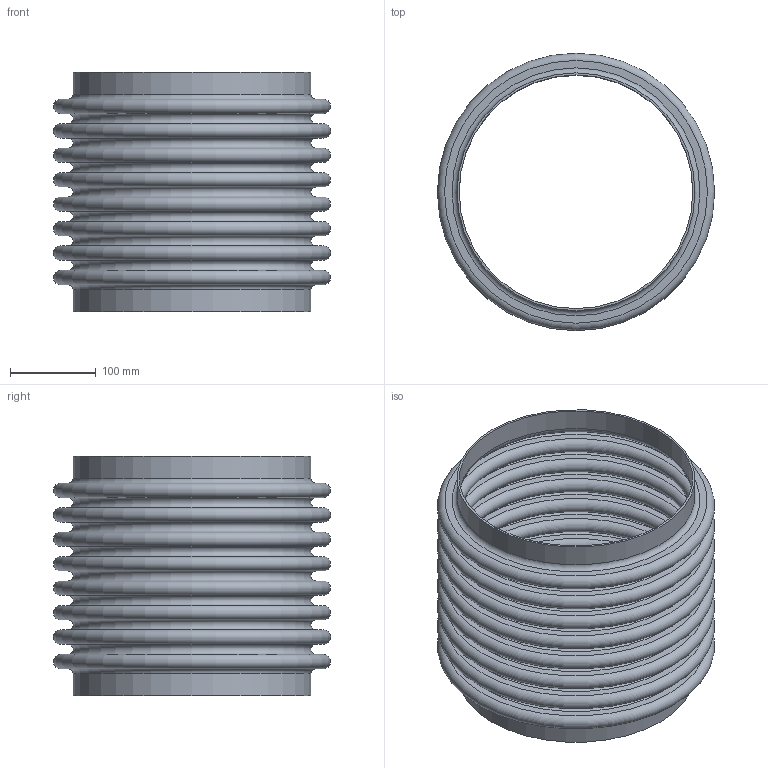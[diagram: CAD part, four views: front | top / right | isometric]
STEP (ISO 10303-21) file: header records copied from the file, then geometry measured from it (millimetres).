
FILE_DESCRIPTION(/* description */ ('STOCK BELLOWS: U.S-10-8-300S, 10.750 I.D., 12.750 O.D., 2 PLY, 18 GA (0.048 THICK), 8 CONS., 1.125 PITCH, 1.000 TANGENT. '),/* implementation_level */ '2;1');
FILE_NAME(/* name */ 'STOCK BELLOW - US-10-8-300S.stp',/* time_stamp */ '2026-07-21T13:28:11-05:00',/* author */ ('KennethB'),/* organization */ (''),/* preprocessor_version */ 'ST-DEVELOPER v20.1',/* originating_system */ 'Autodesk Inventor 2026',/* authorisation */ '');
FILE_SCHEMA (('AUTOMOTIVE_DESIGN { 1 0 10303 214 3 1 1 }'));
Length unit declared in the file: inch
Products named in the file (1): STOCK BELLOW - US-10-8-300S
Bounding box: 323.85 x 323.85 x 279.4 mm (x, y, z)
Volume: 1245468.2 mm3; surface area: 1034207.6 mm2
Topology: 3 solids, 3 shells, 76 faces, 114 edges, 77 vertices
Faces by surface type: plane 38, torus 34, cylinder 4
Full cylindrical faces by diameter (mm): 273.05 x2, 277.927 x2
Entity records: 1814 total; most frequent: DIRECTION 378, CARTESIAN_POINT 268, ORIENTED_EDGE 228, AXIS2_PLACEMENT_3D 187, EDGE_LOOP 114, EDGE_CURVE 114, CIRCLE 110, FACE_OUTER_BOUND 76
